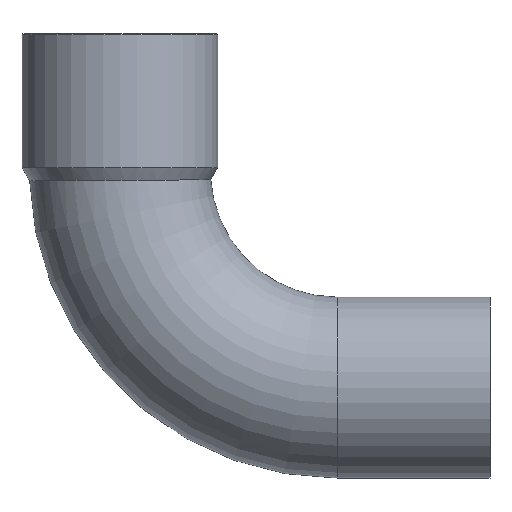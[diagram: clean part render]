
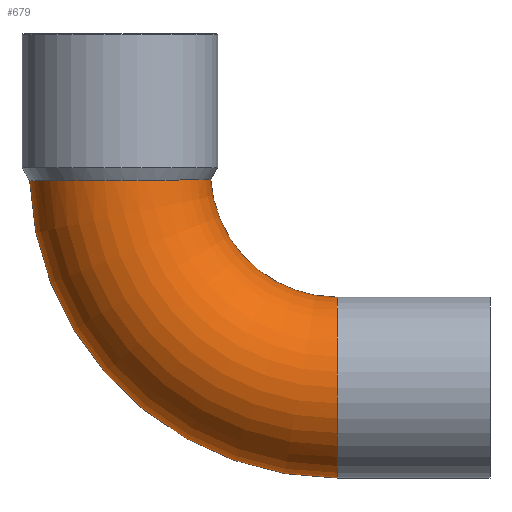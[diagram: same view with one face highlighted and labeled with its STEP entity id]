
A CAD part, front view. The second image highlights one B-rep face of the part: STEP entity #679.
In plain terms, the highlighted toroidal (fillet/blend) face has major radius 26.4 mm and minor radius 11 mm.
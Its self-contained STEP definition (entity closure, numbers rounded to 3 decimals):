
#49=CARTESIAN_POINT('',(-15.345,0.,-1.235));
#50=VERTEX_POINT('',#49);
#51=CARTESIAN_POINT('',(22.035,0.,-37.4));
#52=VERTEX_POINT('',#51);
#53=CARTESIAN_POINT('',(22.035,0.,0.0));
#54=DIRECTION('',(0.0,-1.0,0.0));
#55=DIRECTION('',(0.0,0.0,-1.0));
#56=AXIS2_PLACEMENT_3D('',#53,#54,#55);
#57=CIRCLE('',#56,37.4);
#58=EDGE_CURVE('',#50,#52,#57,.T.);
#60=CARTESIAN_POINT('',(6.676,0.,-1.128));
#61=VERTEX_POINT('',#60);
#85=CARTESIAN_POINT('',(22.035,0.,-15.4));
#86=VERTEX_POINT('',#85);
#87=CARTESIAN_POINT('',(22.035,0.,0.0));
#88=DIRECTION('',(0.0,1.0,0.0));
#89=DIRECTION('',(0.0,0.0,-1.0));
#90=AXIS2_PLACEMENT_3D('',#87,#88,#89);
#91=CIRCLE('',#90,15.4);
#92=EDGE_CURVE('',#86,#61,#91,.T.);
#210=CARTESIAN_POINT('',(6.676,0.,-1.128));
#211=CARTESIAN_POINT('',(6.676,-0.095,-1.128));
#212=CARTESIAN_POINT('',(6.675,-0.19,-1.128));
#213=CARTESIAN_POINT('',(6.636,-1.716,-1.129));
#214=CARTESIAN_POINT('',(6.319,-3.125,-1.132));
#215=CARTESIAN_POINT('',(5.162,-5.747,-1.142));
#216=CARTESIAN_POINT('',(4.332,-6.933,-1.149));
#217=CARTESIAN_POINT('',(2.263,-8.921,-1.165));
#218=CARTESIAN_POINT('',(1.044,-9.703,-1.173));
#219=CARTESIAN_POINT('',(-1.626,-10.757,-1.188));
#220=CARTESIAN_POINT('',(-3.05,-11.018,-1.194));
#221=CARTESIAN_POINT('',(-5.919,-10.98,-1.207));
#222=CARTESIAN_POINT('',(-7.335,-10.681,-1.212));
#223=CARTESIAN_POINT('',(-9.972,-9.558,-1.221));
#224=CARTESIAN_POINT('',(-11.168,-8.744,-1.224));
#225=CARTESIAN_POINT('',(-13.18,-6.705,-1.23));
#226=CARTESIAN_POINT('',(-13.978,-5.499,-1.232));
#227=CARTESIAN_POINT('',(-15.065,-2.85,-1.235));
#228=CARTESIAN_POINT('',(-15.345,-1.432,-1.235));
#229=CARTESIAN_POINT('',(-15.345,0.,-1.235));
#230=B_SPLINE_CURVE_WITH_KNOTS('',3,(#210,#211,#212,#213,#214,#215,#216,#217,#218,#219,#220,#221,#222,#223,#224,#225,#226,#227,#228,#229),.UNSPECIFIED.,.F.,.U.,(4,2,2,2,2,2,2,2,2,4),(-3.468,-3.44,-3.01,-2.58,-2.149,-1.719,-1.289,-0.859,-0.43,0.0),.UNSPECIFIED.);
#231=EDGE_CURVE('',#61,#50,#230,.T.);
#535=CARTESIAN_POINT('',(22.035,0.,-26.4));
#536=DIRECTION('',(-1.0,0.0,0.0));
#537=DIRECTION('',(0.0,0.0,-1.0));
#538=AXIS2_PLACEMENT_3D('',#535,#536,#537);
#539=CIRCLE('',#538,11.0);
#540=EDGE_CURVE('',#52,#86,#539,.T.);
#668=CARTESIAN_POINT('',(22.035,0.,0.0));
#669=DIRECTION('',(0.0,-1.0,0.0));
#670=DIRECTION('',(0.0,0.0,-1.0));
#671=AXIS2_PLACEMENT_3D('',#668,#669,#670);
#672=TOROIDAL_SURFACE('',#671,26.4,11.0);
#673=ORIENTED_EDGE('',*,*,#58,.T.);
#674=ORIENTED_EDGE('',*,*,#540,.T.);
#675=ORIENTED_EDGE('',*,*,#92,.T.);
#676=ORIENTED_EDGE('',*,*,#231,.T.);
#677=EDGE_LOOP('',(#673,#674,#675,#676));
#678=FACE_OUTER_BOUND('',#677,.T.);
#679=ADVANCED_FACE('',(#678),#672,.T.);
